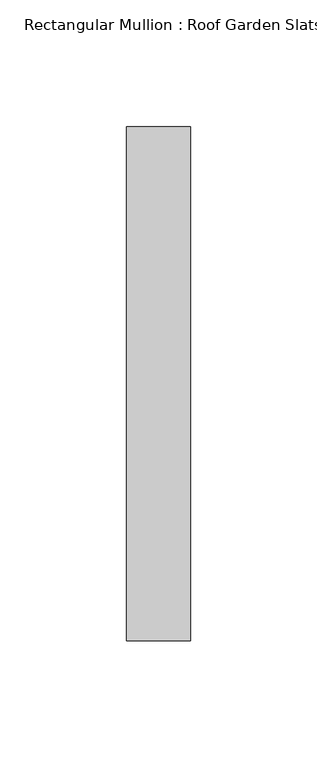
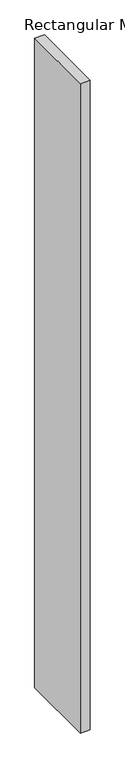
"""IFC4 building model written with IfcOpenShell, lengths in millimetres: member geometry, Rectangular Mullion : Roof Garden Slats."""

from ifc_helpers import new_model, si_unit, frame, origin, place, context, project, spatial, polyline, outline, extrude, source, transform, mapped, element, save


def rectangular_mullion_roof_garden_slats_4fd84587(model_context):
    return source(origin(), model_context, "Body", "SweptSolid", [
        extrude(outline(polyline([(0.0, 139.7), (0.0, -63.5), (-25.4, -63.5), (-25.4, 139.7), (0.0, 139.7)])), frame((0.0, 0.0, -1764.0720816), z_axis=(0.0, 0.0, 1.0), x_axis=(1.0, 0.0, 0.0)), (0.0, 0.0, 1.0), 1764.0720816),
    ])


if __name__ == "__main__":
    model = new_model("IFC4")
    model_context = context("Model", 3, world=origin())
    ifc_project = project(units=[si_unit("LENGTHUNIT", "METRE", prefix="MILLI")], contexts=[model_context])
    site = spatial("IfcSite", under=ifc_project)
    building = spatial("IfcBuilding", under=site)
    placement = place(None, origin())
    rectangular_mullion_roof_garden_slats_shape = rectangular_mullion_roof_garden_slats_4fd84587(model_context)
    element("IfcMember", 1, ObjectType="Rectangular Mullion : Roof Garden Slats", at=placement, inside=building, context=model_context, shape_type="MappedRepresentation", body=[
        mapped(rectangular_mullion_roof_garden_slats_shape, transform((0.0, 0.0, 0.0), x_axis=(1.0, 0.0, 0.0), y_axis=(0.0, 1.0, 0.0), z_axis=(0.0, 0.0, 1.0))),
    ])
    save(model, "model.ifc")
